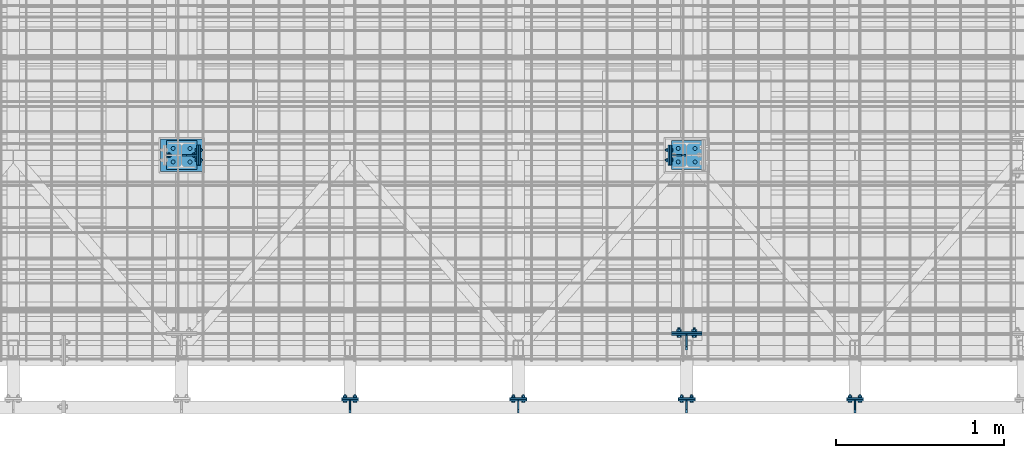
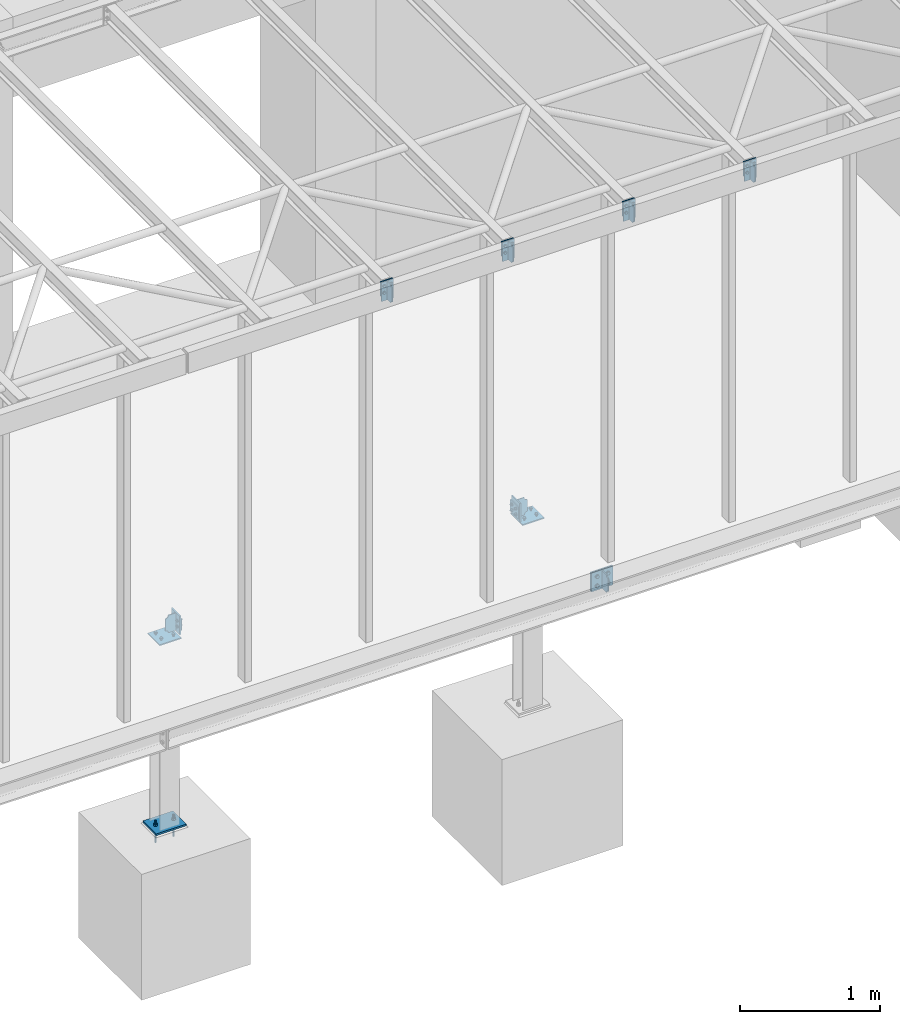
# One storey, part 21 of 27: 24 discrete accessories, 10 mechanical fasteners, 11 elements without a shape of their own.
"""IFC2X3 building model written with IfcOpenShell, lengths in millimetres."""

from ifc_helpers import new_model, si_unit, frame, frame_2d, origin_with_axes, origin_2d_with_axis, place, context, subcontext, project, spatial, polyline, circle_curve, parameter, trimmed, segment, composite_curve, circle, outline, extrude, source, transform, mapped, material, type_object, element, aggregate, save


model = new_model("IFC2X3")

# Units and contexts
model_context = context("Model", 3, precision=1e-05, world=origin_with_axes())
body_context = subcontext(model_context, "Body", "Model", "MODEL_VIEW")
ifc_project = project(units=[si_unit("LENGTHUNIT", "METRE", prefix="MILLI"), si_unit("AREAUNIT", "SQUARE_METRE"), si_unit("VOLUMEUNIT", "CUBIC_METRE"), si_unit("MASSUNIT", "GRAM", prefix="KILO"), si_unit("TIMEUNIT", "SECOND"), si_unit("PLANEANGLEUNIT", "RADIAN"), si_unit("SOLIDANGLEUNIT", "STERADIAN"), si_unit("THERMODYNAMICTEMPERATUREUNIT", "DEGREE_CELSIUS"), si_unit("LUMINOUSINTENSITYUNIT", "LUMEN")], contexts=[model_context])

# Site, building, storey
site_placement = place(None, origin_with_axes())
site = spatial("IfcSite", under=ifc_project, at=site_placement, Name="Undefined", CompositionType="ELEMENT")
building_placement = place(site_placement, origin_with_axes())
building = spatial("IfcBuilding", under=site, at=building_placement, Name="Undefined", CompositionType="ELEMENT")
storey_placement = place(building_placement, origin_with_axes())
storey = spatial("IfcBuildingStorey", under=building, at=storey_placement, Name="Undefined", CompositionType="ELEMENT", Elevation=0.0)

# Assembly, mechanical fastener
assembly_1_placement = place(storey_placement, origin_with_axes())
assembly_1 = element("IfcElementAssembly", 1, at=assembly_1_placement, inside=storey, Name="Steel Assembly", AssemblyPlace="NOTDEFINED", PredefinedType="RIGID_FRAME")
ifc_material_1 = material(Name="Undefined")
discrete_accessory_type_1 = type_object("IfcDiscreteAccessoryType", Name="Bolt assembly")
shared_shape_1 = source(origin_with_axes(), body_context, "Body", "SweptSolid", [
    extrude(circle(Radius=9.0, at=origin_2d_with_axis()), frame((0.0, -15.0, 0.0), z_axis=(0.0, 1.0, 0.0), x_axis=(1.0, 0.0, 0.0)), (0.0, 0.0, 1.0), 15.1),
    extrude(outline(polyline([(7.73649338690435, 0.0), (3.86824669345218, 6.69999980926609), (-3.86824669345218, 6.69999980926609), (-7.73649338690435, 0.0), (-3.86824669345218, -6.69999980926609), (3.86824669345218, -6.69999980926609), (7.73649338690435, 0.0)])), frame((0.0, -147.0, 0.0), z_axis=(0.0, 1.0, 0.0), x_axis=(1.0, 0.0, 0.0)), (0.0, 0.0, 1.0), 132.0),
    extrude(circle(Radius=8.0, at=origin_2d_with_axis()), frame((0.0, -15.0, 0.0), z_axis=(0.0, 1.0, 0.0), x_axis=(1.0, 0.0, 0.0)), (0.0, 0.0, 1.0), 58.0),
    extrude(circle(Radius=15.0, at=origin_2d_with_axis()), frame((0.0, 0.0, 0.0), z_axis=(0.0, 1.0, 0.0), x_axis=(1.0, 0.0, 0.0)), (0.0, 0.0, 1.0), 3.0),
    extrude(outline(polyline([(15.4441197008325, 0.0), (7.72205985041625, 13.3750000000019), (-7.72205985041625, 13.3750000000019), (-15.4441197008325, 0.0), (-7.72205985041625, -13.3750000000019), (7.72205985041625, -13.3750000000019), (15.4441197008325, 0.0)])), frame((0.0, 3.0, 0.0), z_axis=(0.0, 1.0, 0.0), x_axis=(1.0, 0.0, 0.0)), (0.0, 0.0, 1.0), 13.0),
])
mechanical_fastener_1_placement = place(assembly_1_placement, frame((8975.0, 1260.0, -1975.0), z_axis=(0.0, -1.0, 0.0), x_axis=(1.0, 0.0, 0.0)))
mechanical_fastener_1 = element("IfcMechanicalFastener", 2, at=mechanical_fastener_1_placement, type_object=discrete_accessory_type_1, material=ifc_material_1, Name="Bolt assembly", NominalDiameter=16.0, NominalLength=58.0, context=body_context, shape_type="MappedRepresentation", body=[
    mapped(shared_shape_1, transform((0.0, 0.0, 0.0))),
    mapped(shared_shape_1, transform((150.0, 0.0, 0.0))),
])

assembly_2_placement = place(storey_placement, origin_with_axes())
assembly_2 = element("IfcElementAssembly", 3, at=assembly_2_placement, inside=storey, Name="Steel Assembly", AssemblyPlace="NOTDEFINED", PredefinedType="RIGID_FRAME")
shared_shape_2 = source(origin_with_axes(), body_context, "Body", "SweptSolid", [
    extrude(circle(Radius=9.0, at=origin_2d_with_axis()), frame((0.0, -0.1, 0.0), z_axis=(0.0, 1.0, 0.0), x_axis=(1.0, 0.0, 0.0)), (0.0, 0.0, 1.0), 10.1),
    extrude(circle(Radius=9.0, at=origin_2d_with_axis()), frame((0.0, -9.9, 0.0), z_axis=(0.0, 1.0, 0.0), x_axis=(1.0, 0.0, 0.0)), (0.0, 0.0, 1.0), 10.0),
    extrude(outline(polyline([(13.85640646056, 0.0), (6.92820323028, 12.0000000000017), (-6.92820323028, 12.0000000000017), (-13.85640646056, 0.0), (-6.92820323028, -12.0000000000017), (6.92820323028, -12.0000000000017), (13.85640646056, 0.0)])), frame((0.0, -23.0, 0.0), z_axis=(0.0, 1.0, 0.0), x_axis=(1.0, 0.0, 0.0)), (0.0, 0.0, 1.0), 10.0),
    extrude(circle(Radius=8.0, at=origin_2d_with_axis()), frame((0.0, -13.0, 0.0), z_axis=(0.0, 1.0, 0.0), x_axis=(1.0, 0.0, 0.0)), (0.0, 0.0, 1.0), 50.0),
    extrude(circle(Radius=15.0, at=origin_2d_with_axis()), frame((0.0, -13.0, 0.0), z_axis=(0.0, 1.0, 0.0), x_axis=(1.0, 0.0, 0.0)), (0.0, 0.0, 1.0), 3.0),
    extrude(circle(Radius=15.0, at=origin_2d_with_axis()), frame((0.0, 10.0, 0.0), z_axis=(0.0, 1.0, 0.0), x_axis=(1.0, 0.0, 0.0)), (0.0, 0.0, 1.0), 3.0),
    extrude(outline(polyline([(15.4441197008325, 0.0), (7.72205985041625, 13.3750000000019), (-7.72205985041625, 13.3750000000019), (-15.4441197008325, 0.0), (-7.72205985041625, -13.3750000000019), (7.72205985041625, -13.3750000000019), (15.4441197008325, 0.0)])), frame((0.0, 13.0, 0.0), z_axis=(0.0, 1.0, 0.0), x_axis=(1.0, 0.0, 0.0)), (0.0, 0.0, 1.0), 13.0),
])
mechanical_fastener_2_placement = place(assembly_2_placement, frame((12005.0, 200.0, -250.0), z_axis=(0.0, 0.0, 1.0), x_axis=(1.0, 0.0, 0.0)))
mechanical_fastener_2 = element("IfcMechanicalFastener", 4, at=mechanical_fastener_2_placement, type_object=discrete_accessory_type_1, material=ifc_material_1, Name="Bolt assembly", NominalDiameter=16.0, NominalLength=50.0, context=body_context, shape_type="MappedRepresentation", body=[
    mapped(shared_shape_2, transform((0.0, 0.0, -40.0))),
    mapped(shared_shape_2, transform((90.0, 0.0, -40.0))),
    mapped(shared_shape_2, transform((0.0, 0.0, 40.0))),
    mapped(shared_shape_2, transform((90.0, 0.0, 40.0))),
])

# Assembly, discrete accessory
assembly_3_placement = place(storey_placement, origin_with_axes())
assembly_3 = element("IfcElementAssembly", 5, at=assembly_3_placement, inside=storey, Name="Steel Assembly", AssemblyPlace="NOTDEFINED", PredefinedType="RIGID_FRAME")
ifc_material_2 = material(Name="STEEL/S235JR")
discrete_accessory_type_2 = type_object("IfcDiscreteAccessoryType", Name="PLECH")
discrete_accessory_1_placement = place(assembly_3_placement, frame((13050.0, -200.0, 3289.5), z_axis=(1.0, 0.0, 0.0), x_axis=(0.0, -1.0, 0.0)))
discrete_accessory_1 = element("IfcDiscreteAccessory", 6, at=discrete_accessory_1_placement, type_object=discrete_accessory_type_2, material=ifc_material_2, Name="PLECH", ObjectType="PL8*70", context=body_context, shape_type="SweptSolid", body=[
    extrude(outline(composite_curve([segment(polyline([(0.0, 0.0), (49.5, 0.0)]), True, "CONTINUOUS"), segment(trimmed(circle_curve(frame_2d((69.5, 0.0), x_axis=(-1.0, 0.0)), 20.0), [parameter(0.0)], [parameter(4.71238898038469)], False, "PARAMETER"), True, "CONTINUOUS"), segment(polyline([(69.5, 20.0), (69.5, 139.0)]), True, "CONTINUOUS"), segment(trimmed(circle_curve(frame_2d((69.5, 159.0), x_axis=(0.0, -1.0)), 20.0), [parameter(0.0)], [parameter(4.71238898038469)], False, "PARAMETER"), True, "CONTINUOUS"), segment(polyline([(49.5, 159.0), (-3.63797880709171e-12, 159.0), (0.0, 0.0)]), True, "DISCONTINUOUS")], self_intersect=False)), frame((0.0, 0.0, -4.0), z_axis=(0.0, 0.0, 1.0), x_axis=(1.0, 0.0, 0.0)), (0.0, 0.0, 1.0), 8.0),
])

assembly_4_placement = place(storey_placement, origin_with_axes())
assembly_4 = element("IfcElementAssembly", 7, at=assembly_4_placement, inside=storey, Name="Steel Assembly", AssemblyPlace="NOTDEFINED", PredefinedType="RIGID_FRAME")
discrete_accessory_2_placement = place(assembly_4_placement, frame((13000.0, -185.0, 3166.5), z_axis=(0.0, 1.0, 0.0), x_axis=(0.0, 0.0, 1.0)))
discrete_accessory_2 = element("IfcDiscreteAccessory", 8, at=discrete_accessory_2_placement, type_object=discrete_accessory_type_2, material=ifc_material_2, Name="PLECH", ObjectType="PL10*100", context=body_context, shape_type="SweptSolid", body=[
    extrude(outline(polyline([(0.0, 0.0), (127.0, 0.0), (127.0, 100.0), (-9.09494701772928e-13, 100.0), (0.0, 0.0)])), frame((0.0, 0.0, -5.0), z_axis=(0.0, 0.0, 1.0), x_axis=(1.0, 0.0, 0.0)), (0.0, 0.0, 1.0), 10.0),
])
aggregate(assembly_4, [discrete_accessory_2])

# Discrete accessory
discrete_accessory_3_placement = place(assembly_3_placement, frame((13000.0, -195.0, 3127.5), z_axis=(0.0, 1.0, 0.0), x_axis=(0.0, 0.0, 1.0)))
discrete_accessory_3 = element("IfcDiscreteAccessory", 9, at=discrete_accessory_3_placement, type_object=discrete_accessory_type_2, material=ifc_material_2, Name="PLECH", ObjectType="PL10*100", context=body_context, shape_type="SweptSolid", body=[
    extrude(outline(polyline([(0.0, 0.0), (166.000015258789, 0.0), (166.000015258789, 100.0), (-9.09494701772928e-13, 100.0), (0.0, 0.0)])), frame((0.0, 0.0, -5.0), z_axis=(0.0, 0.0, 1.0), x_axis=(1.0, 0.0, 0.0)), (0.0, 0.0, 1.0), 10.0),
])

discrete_accessory_4_placement = place(assembly_3_placement, frame((12050.0, -200.0, 3289.5), z_axis=(1.0, 0.0, 0.0), x_axis=(0.0, -1.0, 0.0)))
discrete_accessory_4 = element("IfcDiscreteAccessory", 10, at=discrete_accessory_4_placement, type_object=discrete_accessory_type_2, material=ifc_material_2, Name="PLECH", ObjectType="PL8*70", context=body_context, shape_type="SweptSolid", body=[
    extrude(outline(composite_curve([segment(polyline([(0.0, 0.0), (49.5, 0.0)]), True, "CONTINUOUS"), segment(trimmed(circle_curve(frame_2d((69.5, 0.0), x_axis=(-1.0, 0.0)), 20.0), [parameter(0.0)], [parameter(4.71238898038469)], False, "PARAMETER"), True, "CONTINUOUS"), segment(polyline([(69.5, 20.0), (69.5, 139.0)]), True, "CONTINUOUS"), segment(trimmed(circle_curve(frame_2d((69.5, 159.0), x_axis=(0.0, -1.0)), 20.0), [parameter(0.0)], [parameter(4.71238898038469)], False, "PARAMETER"), True, "CONTINUOUS"), segment(polyline([(49.5, 159.0), (-3.63797880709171e-12, 159.0), (0.0, 0.0)]), True, "DISCONTINUOUS")], self_intersect=False)), frame((0.0, 0.0, -4.0), z_axis=(0.0, 0.0, 1.0), x_axis=(1.0, 0.0, 0.0)), (0.0, 0.0, 1.0), 8.0),
])

# Assembly, discrete accessory
assembly_5_placement = place(storey_placement, origin_with_axes())
assembly_5 = element("IfcElementAssembly", 11, at=assembly_5_placement, inside=storey, Name="Steel Assembly", AssemblyPlace="NOTDEFINED", PredefinedType="RIGID_FRAME")
discrete_accessory_5_placement = place(assembly_5_placement, frame((12000.0, -185.0, 3166.5), z_axis=(0.0, 1.0, 0.0), x_axis=(0.0, 0.0, 1.0)))
discrete_accessory_5 = element("IfcDiscreteAccessory", 12, at=discrete_accessory_5_placement, type_object=discrete_accessory_type_2, material=ifc_material_2, Name="PLECH", ObjectType="PL10*100", context=body_context, shape_type="SweptSolid", body=[
    extrude(outline(polyline([(0.0, 0.0), (127.0, 0.0), (127.0, 100.0), (-9.09494701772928e-13, 100.0), (0.0, 0.0)])), frame((0.0, 0.0, -5.0), z_axis=(0.0, 0.0, 1.0), x_axis=(1.0, 0.0, 0.0)), (0.0, 0.0, 1.0), 10.0),
])
aggregate(assembly_5, [discrete_accessory_5])

# Discrete accessory
discrete_accessory_6_placement = place(assembly_3_placement, frame((12000.0, -195.0, 3127.5), z_axis=(0.0, 1.0, 0.0), x_axis=(0.0, 0.0, 1.0)))
discrete_accessory_6 = element("IfcDiscreteAccessory", 13, at=discrete_accessory_6_placement, type_object=discrete_accessory_type_2, material=ifc_material_2, Name="PLECH", ObjectType="PL10*100", context=body_context, shape_type="SweptSolid", body=[
    extrude(outline(polyline([(0.0, 0.0), (166.000015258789, 0.0), (166.000015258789, 100.0), (-9.09494701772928e-13, 100.0), (0.0, 0.0)])), frame((0.0, 0.0, -5.0), z_axis=(0.0, 0.0, 1.0), x_axis=(1.0, 0.0, 0.0)), (0.0, 0.0, 1.0), 10.0),
])

discrete_accessory_7_placement = place(assembly_3_placement, frame((11050.0, -200.0, 3289.5), z_axis=(1.0, 0.0, 0.0), x_axis=(0.0, -1.0, 0.0)))
discrete_accessory_7 = element("IfcDiscreteAccessory", 14, at=discrete_accessory_7_placement, type_object=discrete_accessory_type_2, material=ifc_material_2, Name="PLECH", ObjectType="PL8*70", context=body_context, shape_type="SweptSolid", body=[
    extrude(outline(composite_curve([segment(polyline([(0.0, 0.0), (49.5, 0.0)]), True, "CONTINUOUS"), segment(trimmed(circle_curve(frame_2d((69.5, 0.0), x_axis=(-1.0, 0.0)), 20.0), [parameter(0.0)], [parameter(4.71238898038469)], False, "PARAMETER"), True, "CONTINUOUS"), segment(polyline([(69.5, 20.0), (69.5, 139.0)]), True, "CONTINUOUS"), segment(trimmed(circle_curve(frame_2d((69.5, 159.0), x_axis=(0.0, -1.0)), 20.0), [parameter(0.0)], [parameter(4.71238898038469)], False, "PARAMETER"), True, "CONTINUOUS"), segment(polyline([(49.5, 159.0), (-3.63797880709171e-12, 159.0), (0.0, 0.0)]), True, "DISCONTINUOUS")], self_intersect=False)), frame((0.0, 0.0, -4.0), z_axis=(0.0, 0.0, 1.0), x_axis=(1.0, 0.0, 0.0)), (0.0, 0.0, 1.0), 8.0),
])

# Assembly, discrete accessory
assembly_6_placement = place(storey_placement, origin_with_axes())
assembly_6 = element("IfcElementAssembly", 15, at=assembly_6_placement, inside=storey, Name="Steel Assembly", AssemblyPlace="NOTDEFINED", PredefinedType="RIGID_FRAME")
discrete_accessory_8_placement = place(assembly_6_placement, frame((11000.0, -185.0, 3166.5), z_axis=(0.0, 1.0, 0.0), x_axis=(0.0, 0.0, 1.0)))
discrete_accessory_8 = element("IfcDiscreteAccessory", 16, at=discrete_accessory_8_placement, type_object=discrete_accessory_type_2, material=ifc_material_2, Name="PLECH", ObjectType="PL10*100", context=body_context, shape_type="SweptSolid", body=[
    extrude(outline(polyline([(0.0, 0.0), (127.0, 0.0), (127.0, 100.0), (-9.09494701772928e-13, 100.0), (0.0, 0.0)])), frame((0.0, 0.0, -5.0), z_axis=(0.0, 0.0, 1.0), x_axis=(1.0, 0.0, 0.0)), (0.0, 0.0, 1.0), 10.0),
])
aggregate(assembly_6, [discrete_accessory_8])

# Discrete accessory
discrete_accessory_9_placement = place(assembly_3_placement, frame((11000.0, -195.0, 3127.5), z_axis=(0.0, 1.0, 0.0), x_axis=(0.0, 0.0, 1.0)))
discrete_accessory_9 = element("IfcDiscreteAccessory", 17, at=discrete_accessory_9_placement, type_object=discrete_accessory_type_2, material=ifc_material_2, Name="PLECH", ObjectType="PL10*100", context=body_context, shape_type="SweptSolid", body=[
    extrude(outline(polyline([(0.0, 0.0), (166.000015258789, 0.0), (166.000015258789, 100.0), (-9.09494701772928e-13, 100.0), (0.0, 0.0)])), frame((0.0, 0.0, -5.0), z_axis=(0.0, 0.0, 1.0), x_axis=(1.0, 0.0, 0.0)), (0.0, 0.0, 1.0), 10.0),
])

discrete_accessory_10_placement = place(assembly_3_placement, frame((10050.0, -200.0, 3289.5), z_axis=(1.0, 0.0, 0.0), x_axis=(0.0, -1.0, 0.0)))
discrete_accessory_10 = element("IfcDiscreteAccessory", 18, at=discrete_accessory_10_placement, type_object=discrete_accessory_type_2, material=ifc_material_2, Name="PLECH", ObjectType="PL8*70", context=body_context, shape_type="SweptSolid", body=[
    extrude(outline(composite_curve([segment(polyline([(0.0, 0.0), (49.5, 0.0)]), True, "CONTINUOUS"), segment(trimmed(circle_curve(frame_2d((69.5, 0.0), x_axis=(-1.0, 0.0)), 20.0), [parameter(0.0)], [parameter(4.71238898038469)], False, "PARAMETER"), True, "CONTINUOUS"), segment(polyline([(69.5, 20.0), (69.5, 139.0)]), True, "CONTINUOUS"), segment(trimmed(circle_curve(frame_2d((69.5, 159.0), x_axis=(0.0, -1.0)), 20.0), [parameter(0.0)], [parameter(4.71238898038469)], False, "PARAMETER"), True, "CONTINUOUS"), segment(polyline([(49.5, 159.0), (-3.63797880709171e-12, 159.0), (0.0, 0.0)]), True, "DISCONTINUOUS")], self_intersect=False)), frame((0.0, 0.0, -4.0), z_axis=(0.0, 0.0, 1.0), x_axis=(1.0, 0.0, 0.0)), (0.0, 0.0, 1.0), 8.0),
])

# Assembly, discrete accessory
assembly_7_placement = place(storey_placement, origin_with_axes())
assembly_7 = element("IfcElementAssembly", 19, at=assembly_7_placement, inside=storey, Name="Steel Assembly", AssemblyPlace="NOTDEFINED", PredefinedType="RIGID_FRAME")
discrete_accessory_11_placement = place(assembly_7_placement, frame((10000.0, -185.0, 3166.5), z_axis=(0.0, 1.0, 0.0), x_axis=(0.0, 0.0, 1.0)))
discrete_accessory_11 = element("IfcDiscreteAccessory", 20, at=discrete_accessory_11_placement, type_object=discrete_accessory_type_2, material=ifc_material_2, Name="PLECH", ObjectType="PL10*100", context=body_context, shape_type="SweptSolid", body=[
    extrude(outline(polyline([(0.0, 0.0), (127.0, 0.0), (127.0, 100.0), (-9.09494701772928e-13, 100.0), (0.0, 0.0)])), frame((0.0, 0.0, -5.0), z_axis=(0.0, 0.0, 1.0), x_axis=(1.0, 0.0, 0.0)), (0.0, 0.0, 1.0), 10.0),
])
aggregate(assembly_7, [discrete_accessory_11])

# Discrete accessory
discrete_accessory_12_placement = place(assembly_3_placement, frame((10000.0, -195.0, 3127.5), z_axis=(0.0, 1.0, 0.0), x_axis=(0.0, 0.0, 1.0)))
discrete_accessory_12 = element("IfcDiscreteAccessory", 21, at=discrete_accessory_12_placement, type_object=discrete_accessory_type_2, material=ifc_material_2, Name="PLECH", ObjectType="PL10*100", context=body_context, shape_type="SweptSolid", body=[
    extrude(outline(polyline([(0.0, 0.0), (166.000015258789, 0.0), (166.000015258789, 100.0), (-9.09494701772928e-13, 100.0), (0.0, 0.0)])), frame((0.0, 0.0, -5.0), z_axis=(0.0, 0.0, 1.0), x_axis=(1.0, 0.0, 0.0)), (0.0, 0.0, 1.0), 10.0),
])

# Assembly, discrete accessory
assembly_8_placement = place(storey_placement, origin_with_axes())
assembly_8 = element("IfcElementAssembly", 22, at=assembly_8_placement, inside=storey, Name="Steel Assembly", AssemblyPlace="NOTDEFINED", PredefinedType="RIGID_FRAME")
discrete_accessory_13_placement = place(assembly_8_placement, frame((12140.0, 1346.0, -345.0), z_axis=(0.0, 0.0, 1.0), x_axis=(-1.0, 0.0, 0.0)))
discrete_accessory_13 = element("IfcDiscreteAccessory", 23, at=discrete_accessory_13_placement, type_object=discrete_accessory_type_2, material=ifc_material_2, Name="PLECH", ObjectType="PL10*172", context=body_context, shape_type="SweptSolid", body=[
    extrude(outline(polyline([(0.0, 0.0), (180.0, 0.0), (180.0, 172.0), (0.0, 172.0), (0.0, 0.0)])), frame((0.0, 0.0, -5.0), z_axis=(0.0, 0.0, 1.0), x_axis=(1.0, 0.0, 0.0)), (0.0, 0.0, 1.0), 10.0),
])

# Discrete accessory
discrete_accessory_14_placement = place(assembly_1_placement, frame((9140.0, 1346.0, -345.0), z_axis=(0.0, 0.0, 1.0), x_axis=(-1.0, 0.0, 0.0)))
discrete_accessory_14 = element("IfcDiscreteAccessory", 24, at=discrete_accessory_14_placement, type_object=discrete_accessory_type_2, material=ifc_material_2, Name="PLECH", ObjectType="PL10*172", context=body_context, shape_type="SweptSolid", body=[
    extrude(outline(polyline([(0.0, 0.0), (180.0, 0.0), (180.0, 172.0), (0.0, 172.0), (0.0, 0.0)])), frame((0.0, 0.0, -5.0), z_axis=(0.0, 0.0, 1.0), x_axis=(1.0, 0.0, 0.0)), (0.0, 0.0, 1.0), 10.0),
])

discrete_accessory_15_placement = place(assembly_2_placement, frame((11960.0, 195.0, -168.0), z_axis=(0.0, 1.0, 0.0), x_axis=(1.0, 0.0, 0.0)))
discrete_accessory_15 = element("IfcDiscreteAccessory", 25, at=discrete_accessory_15_placement, type_object=discrete_accessory_type_2, material=ifc_material_2, Name="PLECH", ObjectType="PL10*164", context=body_context, shape_type="SweptSolid", body=[
    extrude(outline(polyline([(0.0, 0.0), (180.0, 0.0), (180.0, 164.0), (0.0, 164.0), (0.0, 0.0)])), frame((0.0, 0.0, -5.0), z_axis=(0.0, 0.0, 1.0), x_axis=(1.0, 0.0, 0.0)), (0.0, 0.0, 1.0), 10.0),
])

discrete_accessory_16_placement = place(assembly_2_placement, frame((12050.0, 190.0, -174.0), z_axis=(1.0, 0.0, 0.0), x_axis=(0.0, -1.0, 0.0)))
discrete_accessory_16 = element("IfcDiscreteAccessory", 26, at=discrete_accessory_16_placement, type_object=discrete_accessory_type_2, material=ifc_material_2, Name="PLECH", ObjectType="PL8*86", context=body_context, shape_type="SweptSolid", body=[
    extrude(outline(composite_curve([segment(polyline([(0.0, 0.0), (65.75, 0.0)]), True, "CONTINUOUS"), segment(trimmed(circle_curve(frame_2d((85.75, 0.0), x_axis=(-1.0, 0.0)), 20.0), [parameter(0.0)], [parameter(4.71238898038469)], False, "PARAMETER"), True, "CONTINUOUS"), segment(polyline([(85.75, 20.0), (85.75, 132.0)]), True, "CONTINUOUS"), segment(trimmed(circle_curve(frame_2d((85.75, 152.0), x_axis=(0.0, -1.0)), 20.0), [parameter(0.0)], [parameter(4.71238898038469)], False, "PARAMETER"), True, "CONTINUOUS"), segment(polyline([(65.75, 152.0), (0.0, 152.0), (0.0, 0.0)]), True, "DISCONTINUOUS")], self_intersect=False)), frame((0.0, 0.0, -4.0), z_axis=(0.0, 0.0, 1.0), x_axis=(1.0, 0.0, 0.0)), (0.0, 0.0, 1.0), 8.0),
])

aggregate(assembly_2, [mechanical_fastener_2, discrete_accessory_15, discrete_accessory_16])

# Assembly, discrete accessories
assembly_9_placement = place(storey_placement, origin_with_axes())
assembly_9 = element("IfcElementAssembly", 27, at=assembly_9_placement, inside=storey, Name="Steel Assembly", AssemblyPlace="NOTDEFINED", PredefinedType="RIGID_FRAME")
discrete_accessory_17_placement = place(assembly_9_placement, frame((11960.0, 205.0, -168.0), z_axis=(0.0, 1.0, 0.0), x_axis=(1.0, 0.0, 0.0)))
discrete_accessory_17 = element("IfcDiscreteAccessory", 28, at=discrete_accessory_17_placement, type_object=discrete_accessory_type_2, material=ifc_material_2, Name="PLECH", ObjectType="PL10*164", context=body_context, shape_type="SweptSolid", body=[
    extrude(outline(polyline([(0.0, 0.0), (180.0, 0.0), (180.0, 164.0), (0.0, 164.0), (0.0, 0.0)])), frame((0.0, 0.0, -5.0), z_axis=(0.0, 0.0, 1.0), x_axis=(1.0, 0.0, 0.0)), (0.0, 0.0, 1.0), 10.0),
])
discrete_accessory_18_placement = place(assembly_9_placement, frame((11960.0, 1260.0, -174.0), z_axis=(0.0, 1.0, 0.0), x_axis=(1.0, 0.0, 0.0)))
discrete_accessory_18 = element("IfcDiscreteAccessory", 29, at=discrete_accessory_18_placement, type_object=discrete_accessory_type_2, material=ifc_material_2, Name="PLECH", ObjectType="PL8*86", context=body_context, shape_type="SweptSolid", body=[
    extrude(outline(composite_curve([segment(polyline([(0.0, 0.0), (60.5, 0.0)]), True, "CONTINUOUS"), segment(trimmed(circle_curve(frame_2d((85.5, 0.0), x_axis=(-1.0, 0.0)), 25.0), [parameter(0.0)], [parameter(4.71238898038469)], False, "PARAMETER"), True, "CONTINUOUS"), segment(polyline([(85.5, 25.0), (85.5, 127.0)]), True, "CONTINUOUS"), segment(trimmed(circle_curve(frame_2d((85.5, 152.0), x_axis=(0.0, -1.0)), 25.0), [parameter(0.0)], [parameter(4.71238898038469)], False, "PARAMETER"), True, "CONTINUOUS"), segment(polyline([(60.5, 152.0), (0.0, 152.0), (0.0, 0.0)]), True, "DISCONTINUOUS")], self_intersect=False)), frame((0.0, 0.0, -4.0), z_axis=(0.0, 0.0, 1.0), x_axis=(1.0, 0.0, 0.0)), (0.0, 0.0, 1.0), 8.0),
])

# Assembly, discrete accessory
assembly_10_placement = place(storey_placement, origin_with_axes())
assembly_10 = element("IfcElementAssembly", 30, at=assembly_10_placement, inside=storey, Name="Steel Assembly", AssemblyPlace="NOTDEFINED", PredefinedType="RIGID_FRAME")
discrete_accessory_19_placement = place(assembly_10_placement, frame((9155.0, 1200.0, -299.0), z_axis=(-1.0, 0.0, 0.0), x_axis=(0.0, 0.0, 1.0)))
discrete_accessory_19 = element("IfcDiscreteAccessory", 31, at=discrete_accessory_19_placement, type_object=discrete_accessory_type_2, material=ifc_material_2, Name="PLECH", ObjectType="PL10*98", context=body_context, shape_type="SweptSolid", body=[
    extrude(outline(polyline([(0.0, 0.0), (98.0, 4.54747350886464e-13), (98.0, 120.0), (0.0, 120.0), (0.0, 0.0)])), frame((0.0, 0.0, -5.0), z_axis=(0.0, 0.0, 1.0), x_axis=(1.0, 0.0, 0.0)), (0.0, 0.0, 1.0), 10.0),
])

# Assembly, discrete accessories
assembly_11_placement = place(storey_placement, origin_with_axes())
assembly_11 = element("IfcElementAssembly", 32, at=assembly_11_placement, inside=storey, Name="Steel Assembly", AssemblyPlace="NOTDEFINED", PredefinedType="RIGID_FRAME")
discrete_accessory_20_placement = place(assembly_11_placement, frame((9140.0, 1260.0, -174.0), z_axis=(0.0, -1.0, 0.0), x_axis=(-1.0, 0.0, 0.0)))
discrete_accessory_20 = element("IfcDiscreteAccessory", 33, at=discrete_accessory_20_placement, type_object=discrete_accessory_type_2, material=ifc_material_2, Name="PLECH", ObjectType="PL8*86", context=body_context, shape_type="SweptSolid", body=[
    extrude(outline(composite_curve([segment(polyline([(0.0, 0.0), (60.5, 0.0)]), True, "CONTINUOUS"), segment(trimmed(circle_curve(frame_2d((85.5, 0.0), x_axis=(-1.0, 0.0)), 25.0), [parameter(0.0)], [parameter(4.71238898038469)], False, "PARAMETER"), True, "CONTINUOUS"), segment(polyline([(85.5, 25.0), (85.5, 127.0)]), True, "CONTINUOUS"), segment(trimmed(circle_curve(frame_2d((85.5, 152.0), x_axis=(0.0, -1.0)), 25.0), [parameter(0.0)], [parameter(4.71238898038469)], False, "PARAMETER"), True, "CONTINUOUS"), segment(polyline([(60.5, 152.0), (0.0, 152.0), (0.0, 0.0)]), True, "DISCONTINUOUS")], self_intersect=False)), frame((0.0, 0.0, -4.0), z_axis=(0.0, 0.0, 1.0), x_axis=(1.0, 0.0, 0.0)), (0.0, 0.0, 1.0), 8.0),
])
discrete_accessory_21_placement = place(assembly_11_placement, frame((9145.0, 1200.0, -332.0), z_axis=(-1.0, 0.0, 0.0), x_axis=(0.0, 0.0, 1.0)))
discrete_accessory_21 = element("IfcDiscreteAccessory", 34, at=discrete_accessory_21_placement, type_object=discrete_accessory_type_2, material=ifc_material_2, Name="PLECH", ObjectType="PL10*120", context=body_context, shape_type="SweptSolid", body=[
    extrude(outline(polyline([(0.0, 0.0), (164.0, 4.54747350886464e-13), (164.0, 120.0), (0.0, 120.0), (0.0, 0.0)])), frame((0.0, 0.0, -5.0), z_axis=(0.0, 0.0, 1.0), x_axis=(1.0, 0.0, 0.0)), (0.0, 0.0, 1.0), 10.0),
])

# Discrete accessory
discrete_accessory_22_placement = place(assembly_10_placement, frame((11945.0, 1200.0, -299.0), z_axis=(-1.0, 0.0, 0.0), x_axis=(0.0, 0.0, 1.0)))
discrete_accessory_22 = element("IfcDiscreteAccessory", 35, at=discrete_accessory_22_placement, type_object=discrete_accessory_type_2, material=ifc_material_2, Name="PLECH", ObjectType="PL10*98", context=body_context, shape_type="SweptSolid", body=[
    extrude(outline(polyline([(0.0, 0.0), (98.0, 4.54747350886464e-13), (98.0, 120.0), (0.0, 120.0), (0.0, 0.0)])), frame((0.0, 0.0, -5.0), z_axis=(0.0, 0.0, 1.0), x_axis=(1.0, 0.0, 0.0)), (0.0, 0.0, 1.0), 10.0),
])

aggregate(assembly_10, [discrete_accessory_19, discrete_accessory_22])

discrete_accessory_23_placement = place(assembly_9_placement, frame((11955.0, 1200.0, -332.0), z_axis=(-1.0, 0.0, 0.0), x_axis=(0.0, 0.0, 1.0)))
discrete_accessory_23 = element("IfcDiscreteAccessory", 36, at=discrete_accessory_23_placement, type_object=discrete_accessory_type_2, material=ifc_material_2, Name="PLECH", ObjectType="PL10*120", context=body_context, shape_type="SweptSolid", body=[
    extrude(outline(polyline([(0.0, 0.0), (164.0, 4.54747350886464e-13), (164.0, 120.0), (0.0, 120.0), (0.0, 0.0)])), frame((0.0, 0.0, -5.0), z_axis=(0.0, 0.0, 1.0), x_axis=(1.0, 0.0, 0.0)), (0.0, 0.0, 1.0), 10.0),
])

discrete_accessory_24_placement = place(assembly_1_placement, frame((9175.0, 1356.0, -1982.5), z_axis=(0.0, 0.0, 1.0), x_axis=(-1.0, 0.0, 0.0)))
discrete_accessory_24 = element("IfcDiscreteAccessory", 37, at=discrete_accessory_24_placement, type_object=discrete_accessory_type_2, material=ifc_material_2, Name="PLECH", ObjectType="PL15*192", context=body_context, shape_type="SweptSolid", body=[
    extrude(outline(polyline([(0.0, 0.0), (250.0, 0.0), (250.0, 192.0), (0.0, 192.0), (0.0, 0.0)])), frame((0.0, 0.0, -7.5), z_axis=(0.0, 0.0, 1.0), x_axis=(1.0, 0.0, 0.0)), (0.0, 0.0, 1.0), 15.0),
])

# Mechanical fastener
shared_shape_3 = source(origin_with_axes(), body_context, "Body", "SweptSolid", [
    extrude(circle(Radius=6.5, at=origin_2d_with_axis()), frame((0.0, -13.9, 0.0), z_axis=(0.0, 1.0, 0.0), x_axis=(1.0, 0.0, 0.0)), (0.0, 0.0, 1.0), 14.0),
    extrude(circle(Radius=6.5, at=origin_2d_with_axis()), frame((0.0, -0.1, 0.0), z_axis=(0.0, 1.0, 0.0), x_axis=(1.0, 0.0, 0.0)), (0.0, 0.0, 1.0), 10.1),
    extrude(outline(polyline([(10.39230484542, 0.0), (5.19615242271, 9.00000000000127), (-5.19615242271, 9.00000000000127), (-10.39230484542, 0.0), (-5.19615242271, -9.00000000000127), (5.19615242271, -9.00000000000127), (10.39230484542, 0.0)])), frame((0.0, -24.0, 0.0), z_axis=(0.0, 1.0, 0.0), x_axis=(1.0, 0.0, 0.0)), (0.0, 0.0, 1.0), 7.5),
    extrude(circle(Radius=6.0, at=origin_2d_with_axis()), frame((0.0, -16.5, 0.0), z_axis=(0.0, 1.0, 0.0), x_axis=(1.0, 0.0, 0.0)), (0.0, 0.0, 1.0), 45.0),
    extrude(circle(Radius=12.0, at=origin_2d_with_axis()), frame((0.0, -16.5, 0.0), z_axis=(0.0, 1.0, 0.0), x_axis=(1.0, 0.0, 0.0)), (0.0, 0.0, 1.0), 2.5),
    extrude(circle(Radius=12.0, at=origin_2d_with_axis()), frame((0.0, 10.0, 0.0), z_axis=(0.0, 1.0, 0.0), x_axis=(1.0, 0.0, 0.0)), (0.0, 0.0, 1.0), 2.5),
    extrude(outline(polyline([(10.96965511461, 0.0), (5.484827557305, 9.50000000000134), (-5.484827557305, 9.50000000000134), (-10.96965511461, 0.0), (-5.484827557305, -9.50000000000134), (5.484827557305, -9.50000000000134), (10.96965511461, 0.0)])), frame((0.0, 12.5, 0.0), z_axis=(0.0, 1.0, 0.0), x_axis=(1.0, 0.0, 0.0)), (0.0, 0.0, 1.0), 10.0),
])
mechanical_fastener_3_placement = place(assembly_8_placement, frame((12000.0, 1260.0, -340.0), z_axis=(0.0, 1.0, 0.0), x_axis=(1.0, 0.0, 0.0)))
mechanical_fastener_3 = element("IfcMechanicalFastener", 38, at=mechanical_fastener_3_placement, type_object=discrete_accessory_type_1, material=ifc_material_1, Name="Bolt assembly", NominalDiameter=12.0, NominalLength=45.0, context=body_context, shape_type="MappedRepresentation", body=[
    mapped(shared_shape_3, transform((0.0, 0.0, -40.0))),
    mapped(shared_shape_3, transform((100.0, 0.0, -40.0))),
    mapped(shared_shape_3, transform((0.0, 0.0, 40.0))),
    mapped(shared_shape_3, transform((100.0, 0.0, 40.0))),
])

aggregate(assembly_8, [mechanical_fastener_3, discrete_accessory_13])

mechanical_fastener_4_placement = place(assembly_1_placement, frame((9000.0, 1260.0, -340.0), z_axis=(0.0, 1.0, 0.0), x_axis=(1.0, 0.0, 0.0)))
mechanical_fastener_4 = element("IfcMechanicalFastener", 39, at=mechanical_fastener_4_placement, type_object=discrete_accessory_type_1, material=ifc_material_1, Name="Bolt assembly", NominalDiameter=12.0, NominalLength=45.0, context=body_context, shape_type="MappedRepresentation", body=[
    mapped(shared_shape_3, transform((0.0, 0.0, -40.0))),
    mapped(shared_shape_3, transform((100.0, 0.0, -40.0))),
    mapped(shared_shape_3, transform((0.0, 0.0, 40.0))),
    mapped(shared_shape_3, transform((100.0, 0.0, 40.0))),
])

aggregate(assembly_1, [mechanical_fastener_4, discrete_accessory_14, mechanical_fastener_1, discrete_accessory_24])

shared_shape_4 = source(origin_with_axes(), body_context, "Body", "SweptSolid", [
    extrude(circle(Radius=6.5, at=origin_2d_with_axis()), frame((0.0, -0.1, 0.0), z_axis=(0.0, 1.0, 0.0), x_axis=(1.0, 0.0, 0.0)), (0.0, 0.0, 1.0), 10.1),
    extrude(circle(Radius=6.5, at=origin_2d_with_axis()), frame((0.0, -9.9, 0.0), z_axis=(0.0, 1.0, 0.0), x_axis=(1.0, 0.0, 0.0)), (0.0, 0.0, 1.0), 10.0),
    extrude(outline(polyline([(10.96965511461, 0.0), (5.484827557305, 9.50000000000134), (-5.484827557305, 9.50000000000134), (-10.96965511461, 0.0), (-5.484827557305, -9.50000000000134), (5.484827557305, -9.50000000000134), (10.96965511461, 0.0)])), frame((0.0, -20.0, 0.0), z_axis=(0.0, 1.0, 0.0), x_axis=(1.0, 0.0, 0.0)), (0.0, 0.0, 1.0), 7.5),
    extrude(circle(Radius=6.0, at=origin_2d_with_axis()), frame((0.0, -12.5, 0.0), z_axis=(0.0, 1.0, 0.0), x_axis=(1.0, 0.0, 0.0)), (0.0, 0.0, 1.0), 40.0),
    extrude(circle(Radius=12.0, at=origin_2d_with_axis()), frame((0.0, -12.5, 0.0), z_axis=(0.0, 1.0, 0.0), x_axis=(1.0, 0.0, 0.0)), (0.0, 0.0, 1.0), 2.5),
    extrude(circle(Radius=12.0, at=origin_2d_with_axis()), frame((0.0, 10.0, 0.0), z_axis=(0.0, 1.0, 0.0), x_axis=(1.0, 0.0, 0.0)), (0.0, 0.0, 1.0), 2.5),
    extrude(outline(polyline([(10.96965511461, 0.0), (5.484827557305, 9.50000000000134), (-5.484827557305, 9.50000000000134), (-10.96965511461, 0.0), (-5.484827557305, -9.50000000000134), (5.484827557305, -9.50000000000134), (10.96965511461, 0.0)])), frame((0.0, 12.5, 0.0), z_axis=(0.0, 1.0, 0.0), x_axis=(1.0, 0.0, 0.0)), (0.0, 0.0, 1.0), 10.0),
])
mechanical_fastener_5_placement = place(assembly_3_placement, frame((13020.0, -190.0, 3230.0), z_axis=(0.0, 0.0, 1.0), x_axis=(1.0, 0.0, 0.0)))
mechanical_fastener_5 = element("IfcMechanicalFastener", 40, at=mechanical_fastener_5_placement, type_object=discrete_accessory_type_1, material=ifc_material_1, Name="Bolt assembly", NominalDiameter=12.0, NominalLength=40.0, context=body_context, shape_type="MappedRepresentation", body=[
    mapped(shared_shape_4, transform((0.0, 0.0, 30.0))),
    mapped(shared_shape_4, transform((60.0, 0.0, 30.0))),
    mapped(shared_shape_4, transform((0.0, 0.0, -30.0))),
    mapped(shared_shape_4, transform((60.0, 0.0, -30.0))),
])

mechanical_fastener_6_placement = place(assembly_3_placement, frame((12020.0, -190.0, 3230.0), z_axis=(0.0, 0.0, 1.0), x_axis=(1.0, 0.0, 0.0)))
mechanical_fastener_6 = element("IfcMechanicalFastener", 41, at=mechanical_fastener_6_placement, type_object=discrete_accessory_type_1, material=ifc_material_1, Name="Bolt assembly", NominalDiameter=12.0, NominalLength=40.0, context=body_context, shape_type="MappedRepresentation", body=[
    mapped(shared_shape_4, transform((0.0, 0.0, 30.0))),
    mapped(shared_shape_4, transform((60.0, 0.0, 30.0))),
    mapped(shared_shape_4, transform((0.0, 0.0, -30.0))),
    mapped(shared_shape_4, transform((60.0, 0.0, -30.0))),
])

mechanical_fastener_7_placement = place(assembly_3_placement, frame((11020.0, -190.0, 3230.0), z_axis=(0.0, 0.0, 1.0), x_axis=(1.0, 0.0, 0.0)))
mechanical_fastener_7 = element("IfcMechanicalFastener", 42, at=mechanical_fastener_7_placement, type_object=discrete_accessory_type_1, material=ifc_material_1, Name="Bolt assembly", NominalDiameter=12.0, NominalLength=40.0, context=body_context, shape_type="MappedRepresentation", body=[
    mapped(shared_shape_4, transform((0.0, 0.0, 30.0))),
    mapped(shared_shape_4, transform((60.0, 0.0, 30.0))),
    mapped(shared_shape_4, transform((0.0, 0.0, -30.0))),
    mapped(shared_shape_4, transform((60.0, 0.0, -30.0))),
])

mechanical_fastener_8_placement = place(assembly_3_placement, frame((10020.0, -190.0, 3230.0), z_axis=(0.0, 0.0, 1.0), x_axis=(1.0, 0.0, 0.0)))
mechanical_fastener_8 = element("IfcMechanicalFastener", 43, at=mechanical_fastener_8_placement, type_object=discrete_accessory_type_1, material=ifc_material_1, Name="Bolt assembly", NominalDiameter=12.0, NominalLength=40.0, context=body_context, shape_type="MappedRepresentation", body=[
    mapped(shared_shape_4, transform((0.0, 0.0, 30.0))),
    mapped(shared_shape_4, transform((60.0, 0.0, 30.0))),
    mapped(shared_shape_4, transform((0.0, 0.0, -30.0))),
    mapped(shared_shape_4, transform((60.0, 0.0, -30.0))),
])

aggregate(assembly_3, [mechanical_fastener_5, discrete_accessory_1, discrete_accessory_3, mechanical_fastener_6, discrete_accessory_4, discrete_accessory_6, mechanical_fastener_7, discrete_accessory_7, discrete_accessory_9, mechanical_fastener_8, discrete_accessory_10, discrete_accessory_12])

shared_shape_5 = source(origin_with_axes(), body_context, "Body", "SweptSolid", [
    extrude(circle(Radius=6.5, at=origin_2d_with_axis()), frame((0.0, -4.1, 0.0), z_axis=(0.0, 1.0, 0.0), x_axis=(1.0, 0.0, 0.0)), (0.0, 0.0, 1.0), 10.1),
    extrude(circle(Radius=6.5, at=origin_2d_with_axis()), frame((0.0, -13.9, 0.0), z_axis=(0.0, 1.0, 0.0), x_axis=(1.0, 0.0, 0.0)), (0.0, 0.0, 1.0), 10.0),
    extrude(outline(polyline([(10.39230484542, 0.0), (5.19615242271, 9.00000000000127), (-5.19615242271, 9.00000000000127), (-10.39230484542, 0.0), (-5.19615242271, -9.00000000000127), (5.19615242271, -9.00000000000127), (10.39230484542, 0.0)])), frame((0.0, -24.0, 0.0), z_axis=(0.0, 1.0, 0.0), x_axis=(1.0, 0.0, 0.0)), (0.0, 0.0, 1.0), 7.5),
    extrude(circle(Radius=6.0, at=origin_2d_with_axis()), frame((0.0, -16.5, 0.0), z_axis=(0.0, 1.0, 0.0), x_axis=(1.0, 0.0, 0.0)), (0.0, 0.0, 1.0), 40.0),
    extrude(circle(Radius=12.0, at=origin_2d_with_axis()), frame((0.0, -16.5, 0.0), z_axis=(0.0, 1.0, 0.0), x_axis=(1.0, 0.0, 0.0)), (0.0, 0.0, 1.0), 2.5),
    extrude(circle(Radius=12.0, at=origin_2d_with_axis()), frame((0.0, 6.0, 0.0), z_axis=(0.0, 1.0, 0.0), x_axis=(1.0, 0.0, 0.0)), (0.0, 0.0, 1.0), 2.5),
    extrude(outline(polyline([(10.96965511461, 0.0), (5.484827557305, 9.50000000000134), (-5.484827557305, 9.50000000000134), (-10.96965511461, 0.0), (-5.484827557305, -9.50000000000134), (5.484827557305, -9.50000000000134), (10.96965511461, 0.0)])), frame((0.0, 8.5, 0.0), z_axis=(0.0, 1.0, 0.0), x_axis=(1.0, 0.0, 0.0)), (0.0, 0.0, 1.0), 10.0),
])
mechanical_fastener_9_placement = place(assembly_11_placement, frame((9154.0, 1260.0, -225.0), z_axis=(0.0, -1.0, 0.0), x_axis=(0.0, 0.0, -1.0)))
mechanical_fastener_9 = element("IfcMechanicalFastener", 44, at=mechanical_fastener_9_placement, type_object=discrete_accessory_type_1, material=ifc_material_1, Name="Bolt assembly", NominalDiameter=12.0, NominalLength=40.0, context=body_context, shape_type="MappedRepresentation", body=[
    mapped(shared_shape_5, transform((0.0, 0.0, 30.0))),
    mapped(shared_shape_5, transform((50.0, 0.0, 30.0))),
    mapped(shared_shape_5, transform((0.0, 0.0, -30.0))),
    mapped(shared_shape_5, transform((50.0, 0.0, -30.0))),
])

aggregate(assembly_11, [mechanical_fastener_9, discrete_accessory_20, discrete_accessory_21])

mechanical_fastener_10_placement = place(assembly_9_placement, frame((11946.0, 1260.0, -225.0), z_axis=(0.0, 1.0, 0.0), x_axis=(0.0, 0.0, -1.0)))
mechanical_fastener_10 = element("IfcMechanicalFastener", 45, at=mechanical_fastener_10_placement, type_object=discrete_accessory_type_1, material=ifc_material_1, Name="Bolt assembly", NominalDiameter=12.0, NominalLength=40.0, context=body_context, shape_type="MappedRepresentation", body=[
    mapped(shared_shape_5, transform((0.0, 0.0, -30.0))),
    mapped(shared_shape_5, transform((50.0, 0.0, -30.0))),
    mapped(shared_shape_5, transform((0.0, 0.0, 30.0))),
    mapped(shared_shape_5, transform((50.0, 0.0, 30.0))),
])

aggregate(assembly_9, [discrete_accessory_17, discrete_accessory_18, mechanical_fastener_10, discrete_accessory_23])

save(model, "model.ifc")
